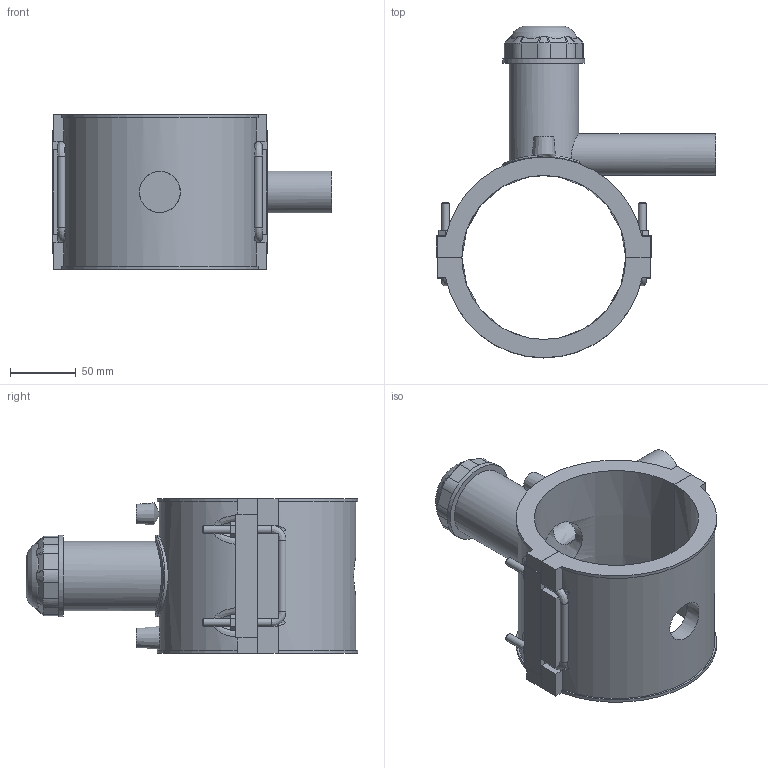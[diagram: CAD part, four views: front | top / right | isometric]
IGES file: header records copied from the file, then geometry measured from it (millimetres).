
Global section: file name: 496304125032.ipt; native system: Autodesk Inventor 2015; preprocessor: unknown; author: KIM; date: 20190124.130915; units: millimetre
Bounding box: 213 x 253 x 118 mm (x, y, z)
Volume: 822602.4 mm3; surface area: 184948 mm2
Topology: 2 solids, 4 shells, 224 faces, 566 edges, 363 vertices
Faces by surface type: plane 125, cylinder 36, revolution 28, bspline 21, cone 14
Full cylindrical faces by diameter (mm): 4 x2, 6 x8, 32 x1, 53.125 x1, 62.5 x1
